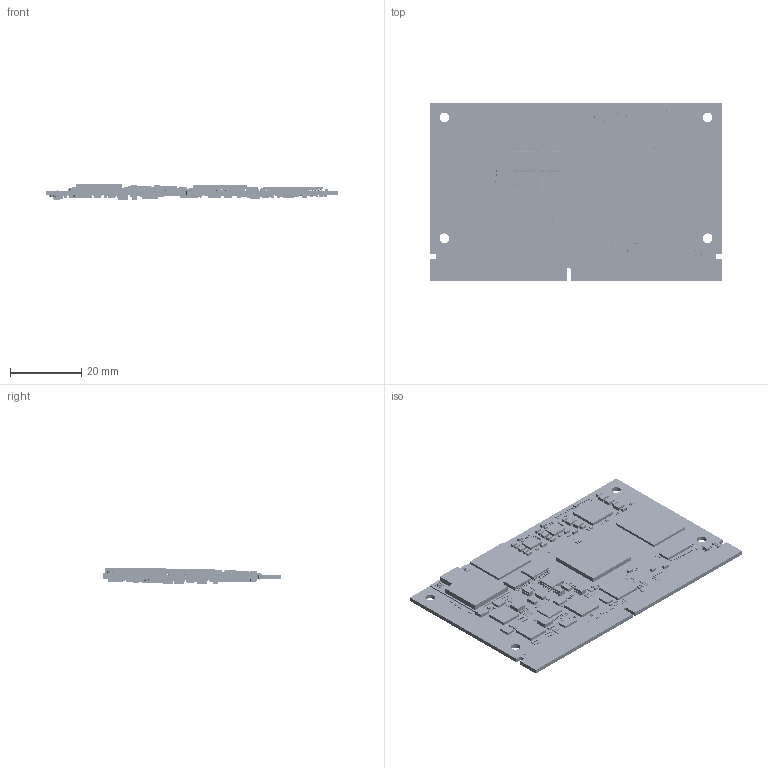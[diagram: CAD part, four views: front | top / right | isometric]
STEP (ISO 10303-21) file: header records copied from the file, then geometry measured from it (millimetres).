
FILE_DESCRIPTION((''),'2;1');
FILE_NAME('MYC-JMX95_V10-20260629_ASM','2026-08-07T16:36:45',('MYIR'),(''),'CREO PARAMETRIC BY PTC INC, 2026092','CREO PARAMETRIC BY PTC INC, 2026092','');
FILE_SCHEMA(('AUTOMOTIVE_DESIGN { 1 0 10303 214 1 1 1 1 }'));
Products named in the file (85): MYC-JMX95_V10-20260629; 20401-00135; 20401-00076; 20101-00114; 20201-00023; 20105-00032; 20102-00105; 20401-00077; 20401-80384; 20401-00104; 20401-80101; 20401-00111; 20401-00109; 20401-00103; 20401-80346; 20401-80187; 20401-00100; 20401-80188; 20401-00107; 20401-00105; 20501-00026; 20702-00002; 20105-00014; 20107-00085; 20116-00007; 20102-00226; 20102-00186; 20105-00008; 20103-00143; 20106-00014; 20105-00051; 20103-00142; 20103-00144; 20301-00326; 20301-00314; 20703-00017; 20301-80513; C0201; 20301-80515; 20301-80519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
Assembly tree (853 placements, depth 2):
  MYC-JMX95_V10-20260629_ASM
    MYC-JMX95_V10-20260629
    20401-00135  x4
    20401-00076  x2
    20101-00114
    20201-00023
    20105-00032  x2
    20102-00105
    20401-00077  x3
    20401-80384  x2
    20401-00104  x27
    20401-80101  x2
    20401-00111  x3
    20401-00109  x88
    20401-00103  x13
    20401-80346  x19
    20401-80187  x27
    20401-00100  x14
    20401-80188  x8
    20401-00107  x11
    20401-00105
    20501-00026  x5
    20702-00002
    20105-00014
    20107-00085  x2
    20116-00007  x2
    20102-00226
    20102-00186
    20105-00008  x4
    20103-00143
    20106-00014
    20105-00051
    20103-00142
    20103-00144
    20301-00326
    20301-00314
    20703-00017
    20301-80513  x2
    C0201  x2
    20301-80515
    20301-80519  x3
    20107-00054
    20301-80524  x31
    20301-80580  x14
    R0201  x65
    20301-00344  x18
    20301-80673  x59
    20301-80650  x20
    20301-80670  x133
    20301-80671  x25
    C0402  x7
    20601-80007  x16
    20501-00059  x2
    20501-00034  x2
    20301-00248  x2
    20301-00291
    20115-80081
    20107-00096
    20105-00031  x2
    20901-00018
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Bounding box: 82 x 50 x 4.51 mm (x, y, z)
Volume: 6580.5 mm3; surface area: 14237.7 mm2
Topology: 1408 solids, 1412 shells, 19619 faces, 74214 edges, 63457 vertices
Faces by surface type: plane 15865, sphere 3128, cylinder 626
Entity records: 514513 total; most frequent: DIRECTION 76981, CARTESIAN_POINT 68111, ORIENTED_EDGE 39202, VECTOR 28748, LINE 28748, PRESENTATION_STYLE_ASSIGNMENT 27721, STYLED_ITEM 27721, CURVE_STYLE 26282
